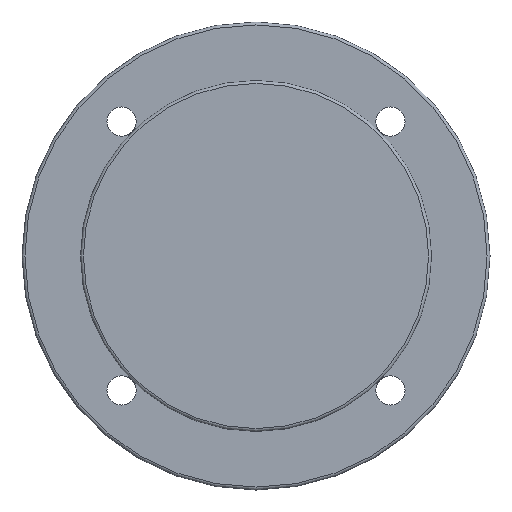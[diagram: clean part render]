
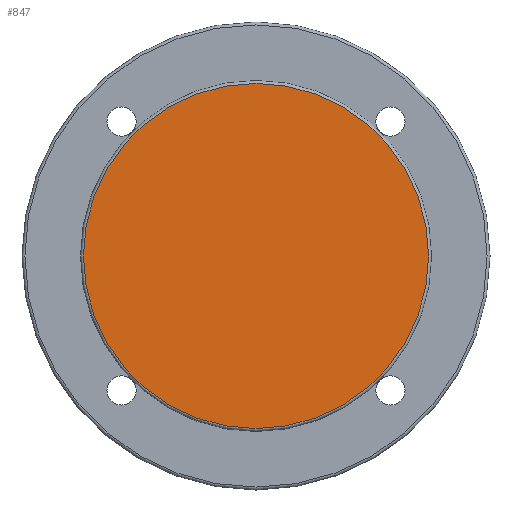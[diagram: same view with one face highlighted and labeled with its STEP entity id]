
A CAD part, left-side view. The second image highlights one B-rep face of the part: STEP entity #847.
In plain terms, the highlighted planar face has unit normal (-1, 0, 0).
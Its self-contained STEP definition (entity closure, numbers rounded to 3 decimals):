
#824=CARTESIAN_POINT('',(0.0,59.0,0.0));
#825=VERTEX_POINT('',#824);
#826=CARTESIAN_POINT('',(0.0,0.0,0.0));
#827=DIRECTION('',(1.0,0.0,0.0));
#828=DIRECTION('',(0.0,-1.0,0.0));
#829=AXIS2_PLACEMENT_3D('',#826,#827,#828);
#830=CIRCLE('',#829,59.0);
#831=EDGE_CURVE('',#825,#825,#830,.T.);
#839=CARTESIAN_POINT('',(0.0,49.5,0.));
#840=DIRECTION('',(-1.0,0.0,0.0));
#841=DIRECTION('',(0.0,0.0,1.0));
#842=AXIS2_PLACEMENT_3D('',#839,#840,#841);
#843=PLANE('',#842);
#844=ORIENTED_EDGE('',*,*,#831,.F.);
#845=EDGE_LOOP('',(#844));
#846=FACE_OUTER_BOUND('',#845,.T.);
#847=ADVANCED_FACE('',(#846),#843,.T.);
